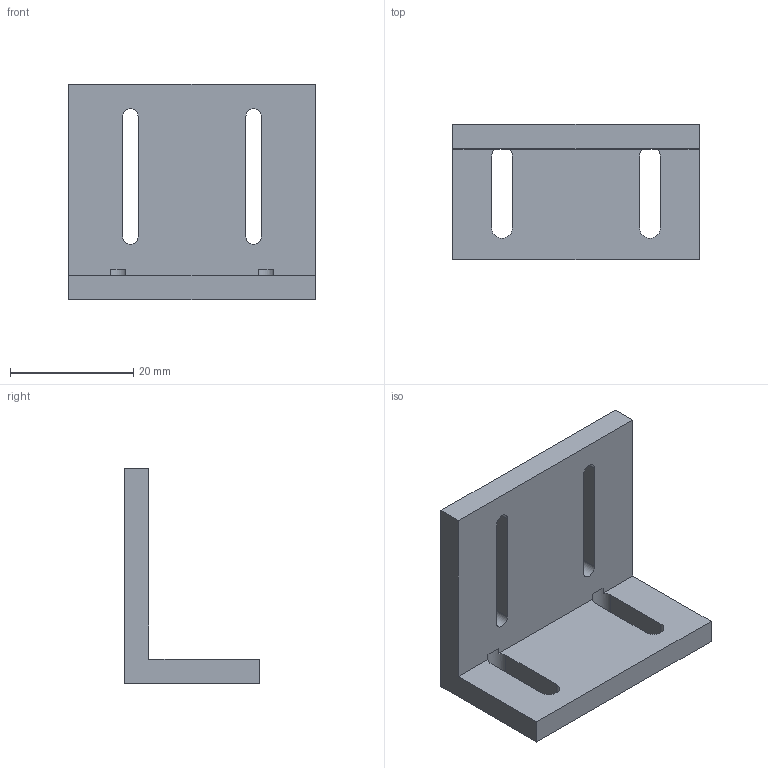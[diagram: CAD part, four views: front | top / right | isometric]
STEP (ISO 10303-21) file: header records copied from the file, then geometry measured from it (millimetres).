
FILE_DESCRIPTION(('Open CASCADE Model'),'2;1');
FILE_NAME('Open CASCADE Shape Model','2026-10-21T16:54:03',('Author'),( 'Open CASCADE'),'Open CASCADE STEP processor 7.9','Open CASCADE 7.9' ,'Unknown');
FILE_SCHEMA(('AUTOMOTIVE_DESIGN { 1 0 10303 214 1 1 1 1 }'));
Length unit declared in the file: millimetre
Products named in the file (1): Open CASCADE STEP translator 7.9 64
Bounding box: 40 x 22 x 35 mm (x, y, z)
Volume: 7660.9 mm3; surface area: 5225 mm2
Topology: 1 solids, 1 shells, 26 faces, 78 edges, 52 vertices
Faces by surface type: plane 18, cylinder 8
Entity records: 1952 total; most frequent: CARTESIAN_POINT 373, DIRECTION 298, LINE 194, VECTOR 194, ORIENTED_EDGE 156, PCURVE 156, DEFINITIONAL_REPRESENTATION 156, EDGE_CURVE 78
